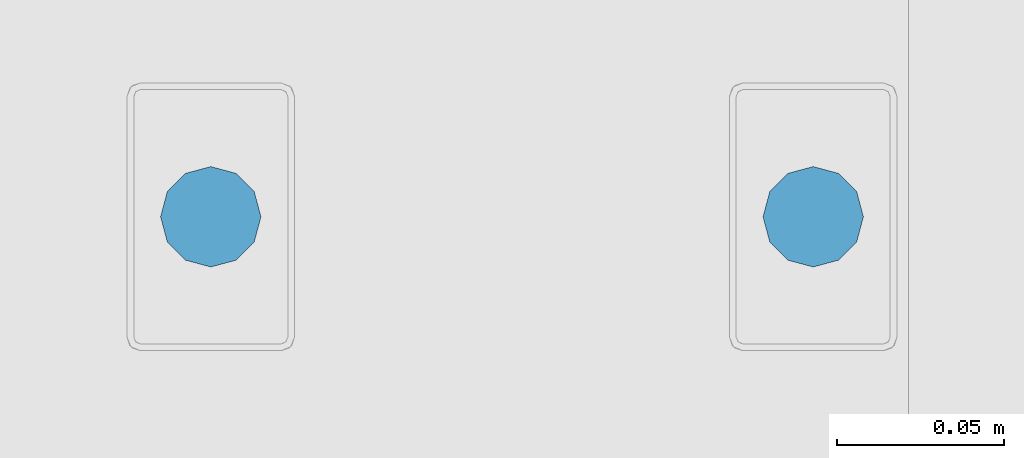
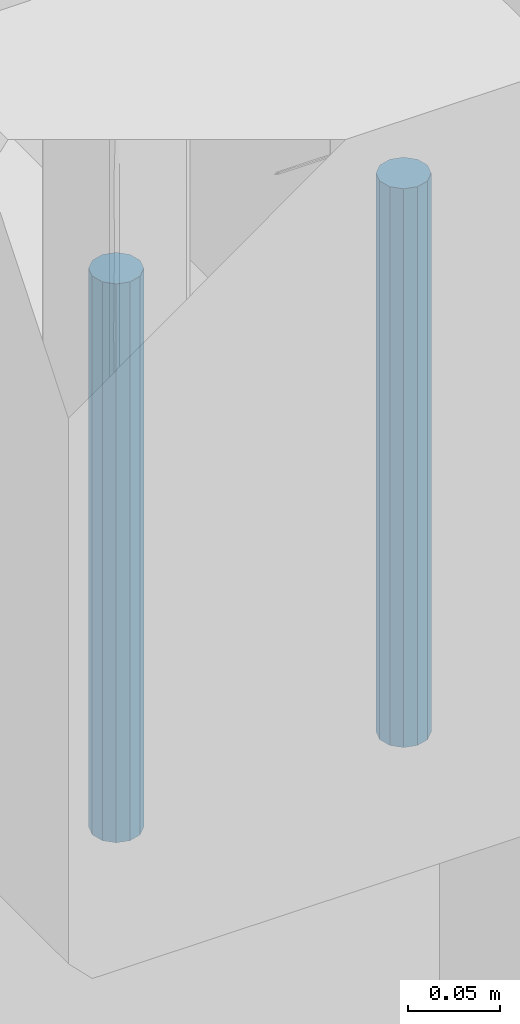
# One storey, part 147 of 230: 2 beams.
"""IFC4X3_ADD2 building model written with IfcOpenShell, lengths in millimetres."""

from ifc_helpers import new_model, si_unit, direction, origin_with_axes, place, context, subcontext, project, spatial, polygons, element, save


model = new_model("IFC4X3_ADD2")

# Units and contexts
model_context = context("Model", 3, precision=1e-05, world=origin_with_axes(), true_north=direction((0.0, 1.0)))
body_context = subcontext(model_context, "Body", "Model", "MODEL_VIEW")
ifc_project = project(units=[si_unit("LENGTHUNIT", "METRE", prefix="MILLI"), si_unit("AREAUNIT", "SQUARE_METRE"), si_unit("VOLUMEUNIT", "CUBIC_METRE"), si_unit("PLANEANGLEUNIT", "RADIAN"), si_unit("TIMEUNIT", "SECOND"), si_unit("MASSUNIT", "GRAM")], contexts=[model_context])

# Site, building, storey
site_placement = place(None, origin_with_axes())
site = spatial("IfcSite", under=ifc_project, at=site_placement, Name="Site", CompositionType="ELEMENT")
building_placement = place(site_placement, origin_with_axes())
building = spatial("IfcBuilding", under=site, at=building_placement, Name="IFC Building Story")
storey_placement = place(building_placement, origin_with_axes())
storey = spatial("IfcBuildingStorey", under=building, at=storey_placement, Name="ETAGE 00 (0)", Elevation=0.0)

# Beams
beam_1_placement = place(storey_placement, origin_with_axes())
element("IfcBeam", 1, at=beam_1_placement, inside=storey, Name="SD11", ObjectType="D30", context=body_context, shape_type="Tessellation", body=[
    polygons([(33296.1882547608, 549.9999637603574, 3860.0), (33296.1882547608, 549.9999637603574, 3490.0), (33298.19787370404, 542.4999637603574, 3490.0), (33298.19787370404, 542.4999637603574, 3860.0), (33303.6882547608, 537.009582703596, 3490.0), (33303.68825476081, 537.0095827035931, 3860.0), (33311.1882547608, 534.999963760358, 3490.0), (33311.1882547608, 534.999963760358, 3860.0), (33318.6882547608, 537.0095827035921, 3490.0), (33318.6882547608, 537.0095827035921, 3860.0), (33324.17863581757, 542.4999637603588, 3490.0), (33324.17863581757, 542.4999637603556, 3860.0), (33326.1882547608, 549.9999637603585, 3490.0), (33326.1882547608, 549.9999637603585, 3860.0), (33324.17863581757, 557.4999637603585, 3490.0), (33324.17863581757, 557.4999637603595, 3860.0), (33318.6882547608, 562.9903448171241, 3490.0), (33318.6882547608, 562.9903448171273, 3860.0), (33311.1882547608, 564.999963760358, 3490.0), (33311.1882547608, 564.999963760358, 3860.0), (33303.6882547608, 562.9903448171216, 3490.0), (33303.6882547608, 562.9903448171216, 3860.0), (33298.19787370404, 557.4999637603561, 3490.0), (33298.19787370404, 557.4999637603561, 3860.0)], [[[1, 2, 3, 4]], [[4, 3, 5, 6]], [[6, 5, 7, 8]], [[8, 7, 9, 10]], [[10, 9, 11, 12]], [[12, 11, 13, 14]], [[14, 13, 15, 16]], [[16, 15, 17, 18]], [[18, 17, 19, 20]], [[20, 19, 21, 22]], [[22, 21, 23, 24]], [[24, 23, 2, 1]], [[4, 6, 8]], [[4, 8, 10]], [[4, 10, 12]], [[4, 12, 14]], [[4, 14, 16]], [[4, 16, 18]], [[4, 18, 20]], [[4, 20, 22]], [[4, 22, 24]], [[4, 24, 1]], [[2, 23, 21]], [[2, 21, 19]], [[2, 19, 17]], [[2, 17, 15]], [[2, 15, 13]], [[2, 13, 11]], [[2, 11, 9]], [[2, 9, 7]], [[2, 7, 5]], [[2, 5, 3]]]),
])
beam_2_placement = place(storey_placement, origin_with_axes())
element("IfcBeam", 2, at=beam_2_placement, inside=storey, Name="SD11", ObjectType="D30", context=body_context, shape_type="Tessellation", body=[
    polygons([(33476.1882547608, 549.9999637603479, 3860.0), (33476.1882547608, 549.9999637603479, 3490.0), (33478.19787370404, 542.4999637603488, 3490.0), (33478.19787370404, 542.4999637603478, 3860.0), (33483.6882547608, 537.0095827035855, 3490.0), (33483.68825476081, 537.0095827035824, 3860.0), (33491.1882547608, 534.999963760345, 3490.0), (33491.1882547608, 534.999963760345, 3860.0), (33498.6882547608, 537.0095827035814, 3490.0), (33498.6882547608, 537.0095827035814, 3860.0), (33504.17863581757, 542.4999637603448, 3490.0), (33504.17863581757, 542.4999637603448, 3860.0), (33506.1882547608, 549.999963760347, 3490.0), (33506.1882547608, 549.999963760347, 3860.0), (33504.17863581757, 557.4999637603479, 3490.0), (33504.17863581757, 557.4999637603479, 3860.0), (33498.6882547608, 562.9903448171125, 3490.0), (33498.6882547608, 562.9903448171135, 3860.0), (33491.1882547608, 564.999963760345, 3490.0), (33491.1882547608, 564.999963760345, 3860.0), (33483.6882547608, 562.990344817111, 3490.0), (33483.6882547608, 562.990344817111, 3860.0), (33478.19787370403, 557.4999637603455, 3490.0), (33478.19787370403, 557.4999637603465, 3860.0)], [[[1, 2, 3, 4]], [[4, 3, 5, 6]], [[6, 5, 7, 8]], [[8, 7, 9, 10]], [[10, 9, 11, 12]], [[12, 11, 13, 14]], [[14, 13, 15, 16]], [[16, 15, 17, 18]], [[18, 17, 19, 20]], [[20, 19, 21, 22]], [[22, 21, 23, 24]], [[24, 23, 2, 1]], [[4, 6, 8]], [[4, 8, 10]], [[4, 10, 12]], [[4, 12, 14]], [[4, 14, 16]], [[4, 16, 18]], [[4, 18, 20]], [[4, 20, 22]], [[4, 22, 24]], [[4, 24, 1]], [[2, 23, 21]], [[2, 21, 19]], [[2, 19, 17]], [[2, 17, 15]], [[2, 15, 13]], [[2, 13, 11]], [[2, 11, 9]], [[2, 9, 7]], [[2, 7, 5]], [[2, 5, 3]]]),
])

save(model, "model.ifc")
